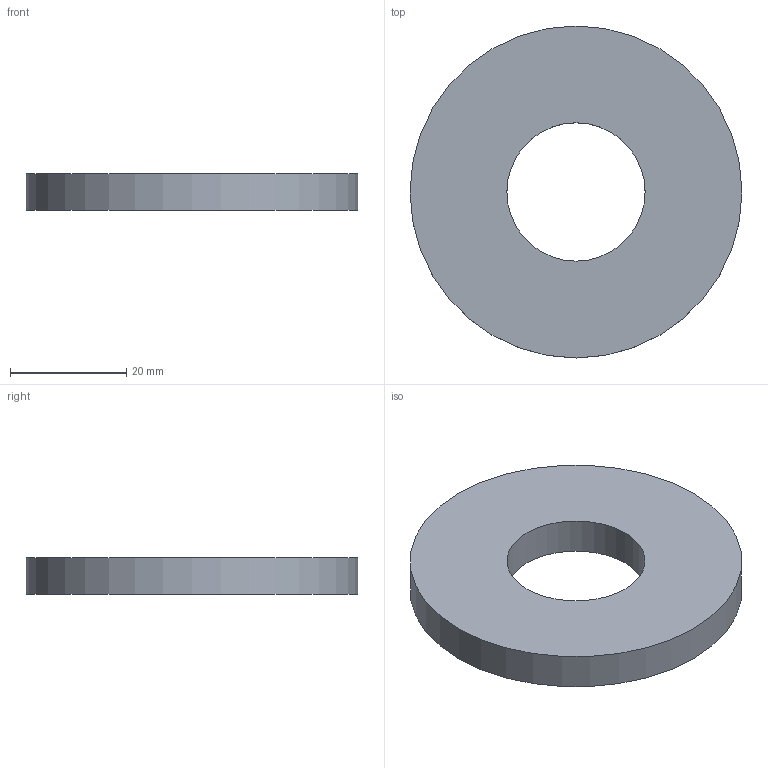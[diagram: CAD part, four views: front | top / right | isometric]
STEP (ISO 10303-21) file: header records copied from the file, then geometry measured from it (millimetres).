
FILE_DESCRIPTION(/* description */ (''),/* implementation_level */ '2;1');
FILE_NAME(/* name */ 'C:\001_Work\Designs\HLW\HLW-0875.stp',/* time_stamp */ '2015-09-04T08:49:18-04:00',/* author */ ('rramoutar'),/* organization */ ('Mason Industries Inc.'),/* preprocessor_version */ 'ST-DEVELOPER v15.6',/* originating_system */ 'Autodesk Inventor 2015',/* authorisation */ '');
FILE_SCHEMA (('AUTOMOTIVE_DESIGN { 1 0 10303 214 3 1 1 }'));
Length unit declared in the file: inch
Products named in the file (1): HLW-0875
Bounding box: 57.15 x 57.15 x 6.35 mm (x, y, z)
Volume: 13461.1 mm3; surface area: 5854.8 mm2
Topology: 1 solids, 1 shells, 4 faces, 6 edges, 4 vertices
Faces by surface type: cylinder 2, plane 2
Full cylindrical faces by diameter (mm): 23.812 x1, 57.15 x1
Entity records: 114 total; most frequent: DIRECTION 18, CARTESIAN_POINT 13, AXIS2_PLACEMENT_3D 9, EDGE_LOOP 8, ORIENTED_EDGE 8, FACE_BOUND 4, FACE_OUTER_BOUND 4, CIRCLE 4
